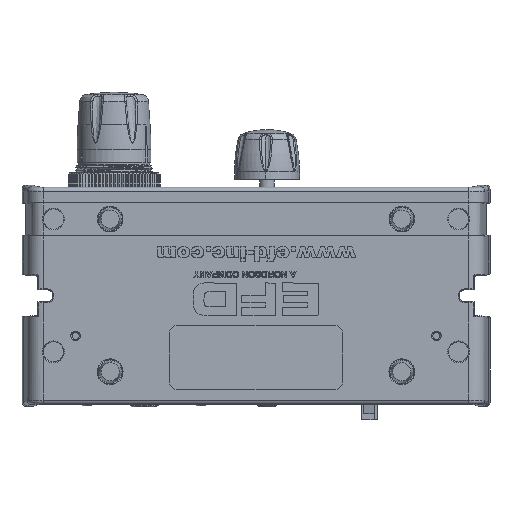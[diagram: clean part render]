
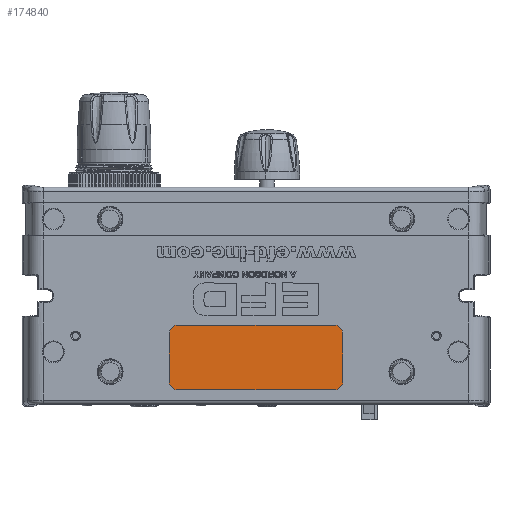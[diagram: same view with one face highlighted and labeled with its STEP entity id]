
A CAD part, front view. The second image highlights one B-rep face of the part: STEP entity #174840.
In plain terms, the highlighted planar face has unit normal (0, -1, 0).
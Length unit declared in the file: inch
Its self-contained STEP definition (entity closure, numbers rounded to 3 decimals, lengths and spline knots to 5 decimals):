
#2504 = AXIS2_PLACEMENT_3D ( 'NONE', #58675, #240725, #84916 ) ;
#7745 = EDGE_CURVE ( 'NONE', #138272, #228944, #74543, .T. ) ;
#8657 = ORIENTED_EDGE ( 'NONE', *, *, #84767, .T. ) ;
#9249 = VERTEX_POINT ( 'NONE', #120307 ) ;
#11318 = CIRCLE ( 'NONE', #2504, 0.135 ) ;
#18246 = AXIS2_PLACEMENT_3D ( 'NONE', #67259, #249266, #93441 ) ;
#34861 = VECTOR ( 'NONE', #291482, 39.37008 ) ;
#41702 = FACE_OUTER_BOUND ( 'NONE', #79342, .T. ) ;
#45585 = VERTEX_POINT ( 'NONE', #138279 ) ;
#52483 = DIRECTION ( 'NONE',  ( -1., 0., 0. ) ) ;
#52895 = LINE ( 'NONE', #333232, #321465 ) ;
#56839 = DIRECTION ( 'NONE',  ( 0., 0., -1. ) ) ;
#58675 = CARTESIAN_POINT ( 'NONE',  ( 1.205, 0.002, -0.58773 ) ) ;
#65473 = ORIENTED_EDGE ( 'NONE', *, *, #156577, .T. ) ;
#67251 = VERTEX_POINT ( 'NONE', #257237 ) ;
#67259 = CARTESIAN_POINT ( 'NONE',  ( -1.205, 0.002, -0.58773 ) ) ;
#69740 = VERTEX_POINT ( 'NONE', #140701 ) ;
#74543 = CIRCLE ( 'NONE', #334878, 0.135 ) ;
#79342 = EDGE_LOOP ( 'NONE', ( #131338, #121716, #65473, #152359, #261015, #141341, #266407, #8657 ) ) ;
#81258 = EDGE_CURVE ( 'NONE', #69740, #243803, #298523, .T. ) ;
#82626 = CARTESIAN_POINT ( 'NONE',  ( 1.205, 0.002, -1.45273 ) ) ;
#84767 = EDGE_CURVE ( 'NONE', #67251, #45585, #234308, .T. ) ;
#84916 = DIRECTION ( 'NONE',  ( 0., 0., -1. ) ) ;
#91069 = VECTOR ( 'NONE', #52483, 39.37008 ) ;
#93441 = DIRECTION ( 'NONE',  ( 0., 0., 1. ) ) ;
#98202 = PLANE ( 'NONE',  #151832 ) ;
#112030 = DIRECTION ( 'NONE',  ( 0., -1., 0. ) ) ;
#116540 = CARTESIAN_POINT ( 'NONE',  ( 1.34, 0.002, -0.58773 ) ) ;
#117605 = CARTESIAN_POINT ( 'NONE',  ( -1.205, 0.002, -1.45273 ) ) ;
#120307 = CARTESIAN_POINT ( 'NONE',  ( -1.34, 0.002, -0.58773 ) ) ;
#121716 = ORIENTED_EDGE ( 'NONE', *, *, #81258, .T. ) ;
#122478 = DIRECTION ( 'NONE',  ( 0., -1., 0. ) ) ;
#123186 = CARTESIAN_POINT ( 'NONE',  ( 1.205, 0.002, -0.58773 ) ) ;
#124339 = DIRECTION ( 'NONE',  ( 0., 0., -1. ) ) ;
#129800 = CARTESIAN_POINT ( 'NONE',  ( 1.205, 0.002, -0.45273 ) ) ;
#131338 = ORIENTED_EDGE ( 'NONE', *, *, #259100, .T. ) ;
#138272 = VERTEX_POINT ( 'NONE', #154749 ) ;
#138279 = CARTESIAN_POINT ( 'NONE',  ( 1.34, 0.002, -0.58773 ) ) ;
#140701 = CARTESIAN_POINT ( 'NONE',  ( 1.205, 0.002, -0.45273 ) ) ;
#140924 = EDGE_CURVE ( 'NONE', #228944, #153135, #52895, .T. ) ;
#141341 = ORIENTED_EDGE ( 'NONE', *, *, #140924, .T. ) ;
#143909 = AXIS2_PLACEMENT_3D ( 'NONE', #267924, #112030, #293964 ) ;
#148991 = CARTESIAN_POINT ( 'NONE',  ( -1.205, 0.002, -0.45273 ) ) ;
#151832 = AXIS2_PLACEMENT_3D ( 'NONE', #123186, #280135, #124339 ) ;
#152359 = ORIENTED_EDGE ( 'NONE', *, *, #252863, .T. ) ;
#153135 = VERTEX_POINT ( 'NONE', #82626 ) ;
#154749 = CARTESIAN_POINT ( 'NONE',  ( -1.34, 0.002, -1.31773 ) ) ;
#156577 = EDGE_CURVE ( 'NONE', #243803, #9249, #305345, .T. ) ;
#171845 = VECTOR ( 'NONE', #56839, 39.37008 ) ;
#174840 = ADVANCED_FACE ( 'NONE', ( #41702 ), #98202, .T. ) ;
#198651 = EDGE_CURVE ( 'NONE', #153135, #67251, #215634, .T. ) ;
#212616 = CARTESIAN_POINT ( 'NONE',  ( -1.34, 0.002, -0.58773 ) ) ;
#215634 = CIRCLE ( 'NONE', #143909, 0.135 ) ;
#228944 = VERTEX_POINT ( 'NONE', #117605 ) ;
#229632 = DIRECTION ( 'NONE',  ( 1., 0., 0. ) ) ;
#232800 = LINE ( 'NONE', #212616, #171845 ) ;
#234308 = LINE ( 'NONE', #116540, #34861 ) ;
#240725 = DIRECTION ( 'NONE',  ( 0., -1., 0. ) ) ;
#243803 = VERTEX_POINT ( 'NONE', #148991 ) ;
#249266 = DIRECTION ( 'NONE',  ( 0., -1., 0. ) ) ;
#252863 = EDGE_CURVE ( 'NONE', #9249, #138272, #232800, .T. ) ;
#257237 = CARTESIAN_POINT ( 'NONE',  ( 1.34, 0.002, -1.31773 ) ) ;
#259100 = EDGE_CURVE ( 'NONE', #45585, #69740, #11318, .T. ) ;
#261015 = ORIENTED_EDGE ( 'NONE', *, *, #7745, .T. ) ;
#266407 = ORIENTED_EDGE ( 'NONE', *, *, #198651, .T. ) ;
#267924 = CARTESIAN_POINT ( 'NONE',  ( 1.205, 0.002, -1.31773 ) ) ;
#278303 = CARTESIAN_POINT ( 'NONE',  ( -1.205, 0.002, -1.31773 ) ) ;
#280135 = DIRECTION ( 'NONE',  ( 0., -1., 0. ) ) ;
#291482 = DIRECTION ( 'NONE',  ( 0., 0., 1. ) ) ;
#293964 = DIRECTION ( 'NONE',  ( 0., 0., -1. ) ) ;
#298523 = LINE ( 'NONE', #129800, #91069 ) ;
#304467 = DIRECTION ( 'NONE',  ( 0., 0., 1. ) ) ;
#305345 = CIRCLE ( 'NONE', #18246, 0.135 ) ;
#321465 = VECTOR ( 'NONE', #229632, 39.37008 ) ;
#333232 = CARTESIAN_POINT ( 'NONE',  ( 1.205, 0.002, -1.45273 ) ) ;
#334878 = AXIS2_PLACEMENT_3D ( 'NONE', #278303, #122478, #304467 ) ;
